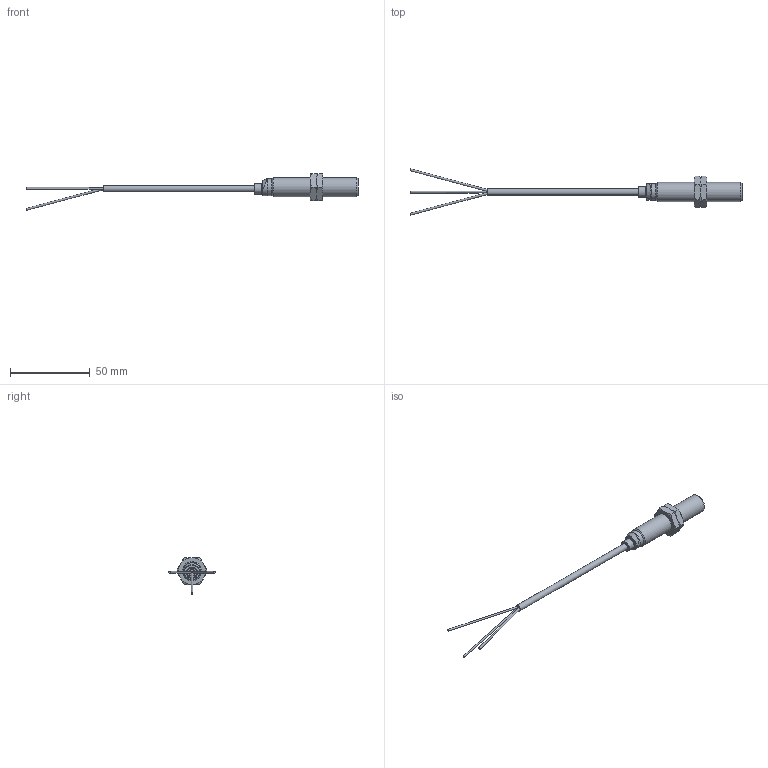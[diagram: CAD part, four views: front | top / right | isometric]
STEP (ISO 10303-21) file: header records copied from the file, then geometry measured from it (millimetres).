
FILE_DESCRIPTION( ( 'STEP AP203' ), '1' );
FILE_NAME( '//expscmdclustefs.cadenas.external/client_exchange/iodir/jobs/output/wkb81176894_no0/STEP/IFS252_2_03.stp', ' ', ( ' ' ), ( ' ' ), 'PSStep 15.0.47', 'PARTsolutions', ' ' );
FILE_SCHEMA( ( 'CONFIG_CONTROL_DESIGN' ) );
Length unit declared in the file: millimetre
Products named in the file (3): IFS252; _IFS252_part1; _SW17-L4-M12x1
Assembly tree (3 placements, depth 2):
  IFS252
    _IFS252_part1
    _SW17-L4-M12x1  x2
Bounding box: 208.46 x 29.09 x 23.04 mm (x, y, z)
Volume: 9352.9 mm3; surface area: 5606.1 mm2
Topology: 3 solids, 3 shells, 73 faces, 150 edges, 89 vertices
Faces by surface type: cone 31, plane 26, cylinder 12, torus 4
Full cylindrical faces by diameter (mm): 1.25 x3, 4 x1, 6.6 x1, 9.76 x1, 10.19 x1, 10.55 x1, 10.6 x1, 10.917 x2, 12 x1
Entity records: 1472 total; most frequent: CARTESIAN_POINT 430, DIRECTION 200, ORIENTED_EDGE 160, AXIS2_PLACEMENT_3D 97, EDGE_CURVE 80, EDGE_LOOP 75, FACE_OUTER_BOUND 63, VERTEX_POINT 57
